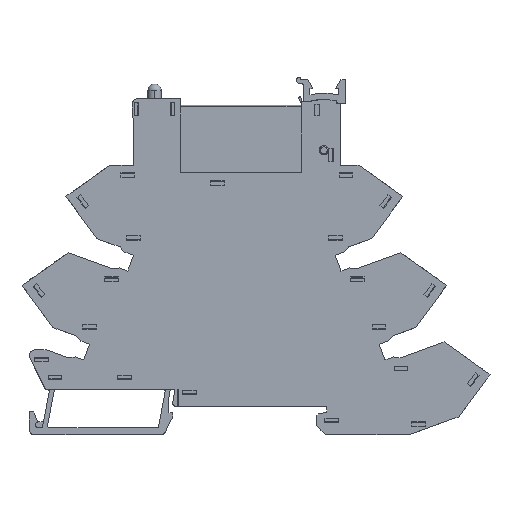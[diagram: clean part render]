
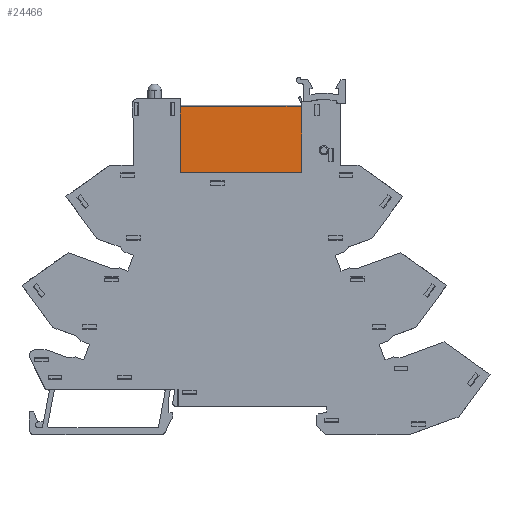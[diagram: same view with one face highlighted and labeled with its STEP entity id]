
A CAD part, top view. The second image highlights one B-rep face of the part: STEP entity #24466.
In plain terms, the highlighted planar face has unit normal (0, 0, 1).
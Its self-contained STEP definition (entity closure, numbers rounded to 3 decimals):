
#442 = B_SPLINE_CURVE_WITH_KNOTS ( 'NONE', 3,
 ( #10407, #29596, #15193, #838, #17635, #3289, #20053, #5678, #22505, #8110, #24922, #10512, #27319 ),
 .UNSPECIFIED., .F., .F.,
 ( 4, 2, 2, 1, 2, 2, 4 ),
 ( 0., 0.25, 0.5, 0.625, 0.687, 0.75, 1. ),
 .UNSPECIFIED. ) ;
#838 = CARTESIAN_POINT ( 'NONE',  ( 9.023, 31.841, 5.55 ) ) ;
#964 = CARTESIAN_POINT ( 'NONE',  ( -18.536, 17.418, 5.55 ) ) ;
#1013 = DIRECTION ( 'NONE',  ( 1., 0., 0. ) ) ;
#1168 = ORIENTED_EDGE ( 'NONE', *, *, #21474, .T. ) ;
#1363 = CARTESIAN_POINT ( 'NONE',  ( -18.536, 31.668, 5.55 ) ) ;
#1575 = EDGE_CURVE ( 'NONE', #18642, #17460, #28708, .T. ) ;
#1756 = CARTESIAN_POINT ( 'NONE',  ( 9.064, 31.668, 5.55 ) ) ;
#1861 = CARTESIAN_POINT ( 'NONE',  ( -18.536, 31.668, 5.55 ) ) ;
#2733 = ORIENTED_EDGE ( 'NONE', *, *, #1575, .T. ) ;
#2739 = LINE ( 'NONE', #1756, #13969 ) ;
#3289 = CARTESIAN_POINT ( 'NONE',  ( 8.945, 31.932, 5.55 ) ) ;
#3530 = VERTEX_POINT ( 'NONE', #26827 ) ;
#3687 = ORIENTED_EDGE ( 'NONE', *, *, #17583, .T. ) ;
#3764 = CARTESIAN_POINT ( 'NONE',  ( -18.186, 32.018, 5.55 ) ) ;
#4294 = EDGE_LOOP ( 'NONE', ( #20480, #17424, #3687, #1168, #2733, #21926 ) ) ;
#4866 = PLANE ( 'NONE',  #18757 ) ;
#5643 = CARTESIAN_POINT ( 'NONE',  ( -18.359, 31.976, 5.55 ) ) ;
#5678 = CARTESIAN_POINT ( 'NONE',  ( 8.887, 31.973, 5.55 ) ) ;
#5827 = VERTEX_POINT ( 'NONE', #1861 ) ;
#6594 = DIRECTION ( 'NONE',  ( 0., 1., 0. ) ) ;
#7770 = VERTEX_POINT ( 'NONE', #23908 ) ;
#8070 = CARTESIAN_POINT ( 'NONE',  ( -18.45, 31.899, 5.55 ) ) ;
#8110 = CARTESIAN_POINT ( 'NONE',  ( 8.853, 31.989, 5.55 ) ) ;
#10367 = CARTESIAN_POINT ( 'NONE',  ( -18.23, 32.018, 5.55 ) ) ;
#10407 = CARTESIAN_POINT ( 'NONE',  ( 9.064, 31.668, 5.55 ) ) ;
#10486 = CARTESIAN_POINT ( 'NONE',  ( -18.49, 31.841, 5.55 ) ) ;
#10512 = CARTESIAN_POINT ( 'NONE',  ( 8.759, 32.018, 5.55 ) ) ;
#12105 = CARTESIAN_POINT ( 'NONE',  ( 8.714, 31.668, 5.55 ) ) ;
#12388 = EDGE_CURVE ( 'NONE', #17460, #5827, #27393, .T. ) ;
#12878 = CARTESIAN_POINT ( 'NONE',  ( -18.507, 31.807, 5.55 ) ) ;
#13576 = LINE ( 'NONE', #22556, #19210 ) ;
#13715 = EDGE_CURVE ( 'NONE', #5827, #16728, #16828, .T. ) ;
#13969 = VECTOR ( 'NONE', #6594, 1000. ) ;
#14290 = FACE_OUTER_BOUND ( 'NONE', #4294, .T. ) ;
#14493 = DIRECTION ( 'NONE',  ( 1., 0., 0. ) ) ;
#15193 = CARTESIAN_POINT ( 'NONE',  ( 9.057, 31.753, 5.55 ) ) ;
#15268 = CARTESIAN_POINT ( 'NONE',  ( -18.536, 31.713, 5.55 ) ) ;
#16728 = VERTEX_POINT ( 'NONE', #964 ) ;
#16828 = LINE ( 'NONE', #28285, #28862 ) ;
#17424 = ORIENTED_EDGE ( 'NONE', *, *, #24098, .T. ) ;
#17460 = VERTEX_POINT ( 'NONE', #3764 ) ;
#17583 = EDGE_CURVE ( 'NONE', #7770, #3530, #2739, .T. ) ;
#17635 = CARTESIAN_POINT ( 'NONE',  ( 8.995, 31.882, 5.55 ) ) ;
#18642 = VERTEX_POINT ( 'NONE', #24918 ) ;
#18757 = AXIS2_PLACEMENT_3D ( 'NONE', #12105, #28894, #14493 ) ;
#19210 = VECTOR ( 'NONE', #1013, 1000. ) ;
#20015 = CARTESIAN_POINT ( 'NONE',  ( -18.271, 32.011, 5.55 ) ) ;
#20053 = CARTESIAN_POINT ( 'NONE',  ( 8.918, 31.955, 5.55 ) ) ;
#20480 = ORIENTED_EDGE ( 'NONE', *, *, #13715, .T. ) ;
#20750 = CARTESIAN_POINT ( 'NONE',  ( 8.714, 32.018, 5.55 ) ) ;
#21474 = EDGE_CURVE ( 'NONE', #3530, #18642, #442, .T. ) ;
#21597 = VECTOR ( 'NONE', #30567, 1000. ) ;
#21926 = ORIENTED_EDGE ( 'NONE', *, *, #12388, .T. ) ;
#22473 = CARTESIAN_POINT ( 'NONE',  ( -18.4, 31.949, 5.55 ) ) ;
#22505 = CARTESIAN_POINT ( 'NONE',  ( 8.866, 31.984, 5.55 ) ) ;
#22556 = CARTESIAN_POINT ( 'NONE',  ( 8.714, 17.418, 5.55 ) ) ;
#23908 = CARTESIAN_POINT ( 'NONE',  ( 9.064, 17.418, 5.55 ) ) ;
#24098 = EDGE_CURVE ( 'NONE', #16728, #7770, #13576, .T. ) ;
#24466 = ADVANCED_FACE ( 'NONE', ( #14290 ), #4866, .T. ) ;
#24784 = CARTESIAN_POINT ( 'NONE',  ( -18.186, 32.018, 5.55 ) ) ;
#24889 = CARTESIAN_POINT ( 'NONE',  ( -18.472, 31.872, 5.55 ) ) ;
#24918 = CARTESIAN_POINT ( 'NONE',  ( 8.714, 32.018, 5.55 ) ) ;
#24922 = CARTESIAN_POINT ( 'NONE',  ( 8.802, 32.01, 5.55 ) ) ;
#26827 = CARTESIAN_POINT ( 'NONE',  ( 9.064, 31.668, 5.55 ) ) ;
#27278 = CARTESIAN_POINT ( 'NONE',  ( -18.501, 31.819, 5.55 ) ) ;
#27319 = CARTESIAN_POINT ( 'NONE',  ( 8.714, 32.018, 5.55 ) ) ;
#27393 = B_SPLINE_CURVE_WITH_KNOTS ( 'NONE', 3,
 ( #24784, #10367, #20015, #5643, #22473, #8070, #24889, #10486, #27278, #12878, #29667, #15268, #1363 ),
 .UNSPECIFIED., .F., .F.,
 ( 4, 2, 2, 1, 2, 2, 4 ),
 ( 0., 0.25, 0.5, 0.625, 0.688, 0.75, 1. ),
 .UNSPECIFIED. ) ;
#28285 = CARTESIAN_POINT ( 'NONE',  ( -18.536, 31.668, 5.55 ) ) ;
#28708 = LINE ( 'NONE', #20750, #21597 ) ;
#28862 = VECTOR ( 'NONE', #30685, 1000. ) ;
#28894 = DIRECTION ( 'NONE',  ( 0., 0., 1. ) ) ;
#29596 = CARTESIAN_POINT ( 'NONE',  ( 9.064, 31.712, 5.55 ) ) ;
#29667 = CARTESIAN_POINT ( 'NONE',  ( -18.528, 31.756, 5.55 ) ) ;
#30567 = DIRECTION ( 'NONE',  ( -1., 0., 0. ) ) ;
#30685 = DIRECTION ( 'NONE',  ( 0., -1., 0. ) ) ;
